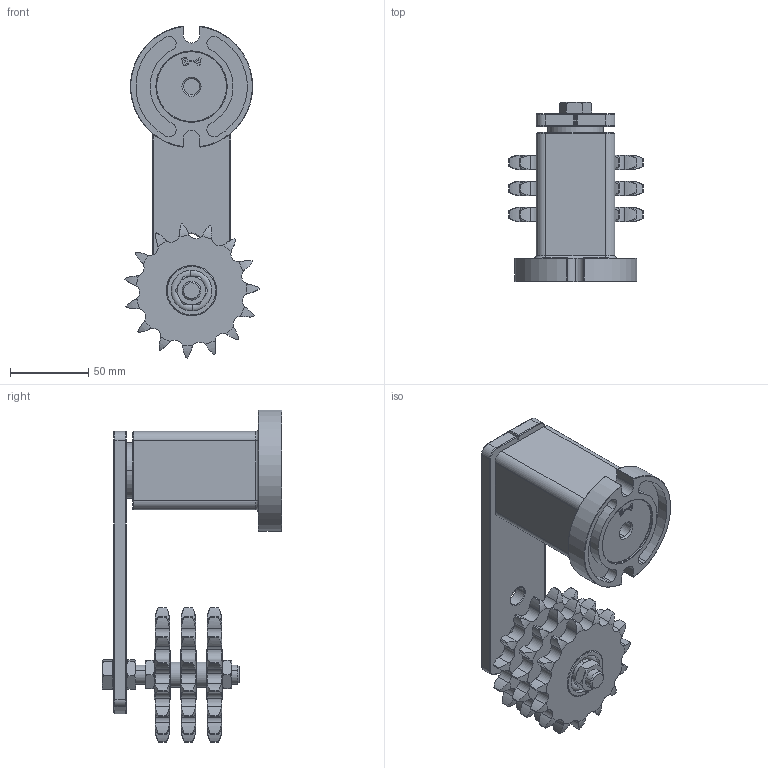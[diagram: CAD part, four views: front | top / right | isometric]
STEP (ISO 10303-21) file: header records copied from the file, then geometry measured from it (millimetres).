
FILE_DESCRIPTION (( 'STEP AP203' ), '1' );
FILE_NAME ('ER 4 - 5-8T cod. 94071543.STEP', '2017-08-28T14:17:42', ( '' ), ( '' ), 'SwSTEP 2.0', 'SolidWorks 2016', '' );
FILE_SCHEMA (( 'CONFIG_CONTROL_DESIGN' ));
Length unit declared in the file: millimetre
Products named in the file (10): Leva E4_step; ISO 4017 - M12 x 80-C_ISO 4017 - M12 x 80-C; ER 4 - 5-8T cod. 94071543; SKF - 6201 - 8,SI,NC,8_68_SKF - 6201 - 8,SI,NC,8_68; E4_009_step; E4 cod. 94070004; ISO - 4035 - M12 - N_ISO - 4035 - M12 - N; Chain wheel ISO - 15Z 10B-1 --15SA32.0N_Chain wheel ISO - 15Z 10B-1 --15SA32.0N; DS 5-8 12-16-6.6; R 5-8T M12 cod. 94061503
Assembly tree (16 placements, depth 3):
  ER 4 - 5-8T cod. 94071543
    E4 cod. 94070004
      Leva E4_step
      E4_009_step
    R 5-8T M12 cod. 94061503
      Chain wheel ISO - 15Z 10B-1 --15SA32.0N_Chain wheel ISO - 15Z 10B-1 --15SA32.0N  x3
      SKF - 6201 - 8,SI,NC,8_68_SKF - 6201 - 8,SI,NC,8_68  x3
      ISO 4017 - M12 x 80-C_ISO 4017 - M12 x 80-C
      ISO - 4035 - M12 - N_ISO - 4035 - M12 - N  x2
      DS 5-8 12-16-6.6  x2
    ISO - 4035 - M12 - N_ISO - 4035 - M12 - N
Bounding box: 85.42 x 114.5 x 211.55 mm (x, y, z)
Volume: 383610.7 mm3; surface area: 129497.2 mm2
Topology: 14 solids, 14 shells, 697 faces, 1765 edges, 1110 vertices
Faces by surface type: cylinder 329, torus 156, plane 136, cone 72, sphere 4
Entity records: 12843 total; most frequent: CARTESIAN_POINT 2761, DIRECTION 1907, ORIENTED_EDGE 1834, EDGE_CURVE 917, AXIS2_PLACEMENT_3D 774, VERTEX_POINT 570, EDGE_LOOP 403, CIRCLE 378
